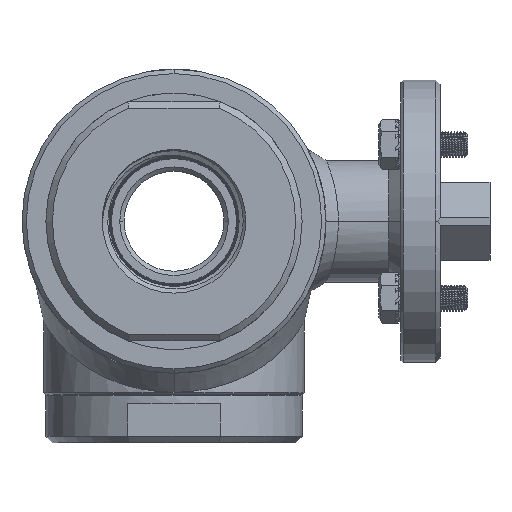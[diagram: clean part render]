
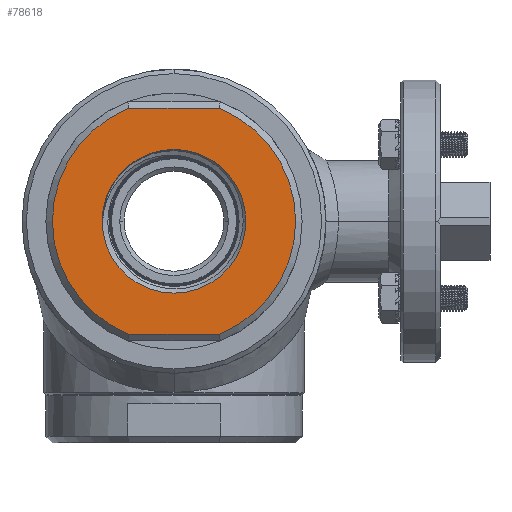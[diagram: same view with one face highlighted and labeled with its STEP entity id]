
A CAD part, front view. The second image highlights one B-rep face of the part: STEP entity #78618.
In plain terms, the highlighted planar face has unit normal (0, -1, 0).
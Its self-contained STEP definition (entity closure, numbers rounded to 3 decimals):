
#7713=DIRECTION('',(1.,0.,0.));
#7714=VECTOR('',#7713,20.785);
#7715=CARTESIAN_POINT('',(-10.392,-51.,-26.));
#7716=LINE('',#7715,#7714);
#7720=DIRECTION('',(-1.,0.,0.));
#7721=VECTOR('',#7720,20.785);
#7722=CARTESIAN_POINT('',(10.392,-51.,26.));
#7723=LINE('',#7722,#7721);
#7727=CARTESIAN_POINT('',(0.,-51.,0.));
#7728=DIRECTION('',(0.,1.,0.));
#7729=DIRECTION('',(1.,0.,0.));
#7730=AXIS2_PLACEMENT_3D('',#7727,#7728,#7729);
#7735=CARTESIAN_POINT('',(0.,-51.,0.));
#7736=DIRECTION('',(0.,1.,0.));
#7737=DIRECTION('',(-1.,0.,0.));
#7738=AXIS2_PLACEMENT_3D('',#7735,#7736,#7737);
#7743=CARTESIAN_POINT('',(0.,-51.,0.));
#7744=DIRECTION('',(0.,-1.,0.));
#7745=DIRECTION('',(0.371,0.,-0.929));
#7746=AXIS2_PLACEMENT_3D('',#7743,#7744,#7745);
#7771=CARTESIAN_POINT('',(0.,-51.,0.));
#7772=DIRECTION('',(0.,-1.,0.));
#7773=DIRECTION('',(-0.371,0.,0.929));
#7774=AXIS2_PLACEMENT_3D('',#7771,#7772,#7773);
#69603=CARTESIAN_POINT('',(-10.392,-51.,-26.));
#69604=CARTESIAN_POINT('',(10.392,-51.,-26.));
#69605=VERTEX_POINT('',#69603);
#69606=VERTEX_POINT('',#69604);
#69611=CARTESIAN_POINT('',(10.392,-51.,26.));
#69612=CARTESIAN_POINT('',(-10.392,-51.,26.));
#69613=VERTEX_POINT('',#69611);
#69614=VERTEX_POINT('',#69612);
#69615=CARTESIAN_POINT('',(16.55,-51.,0.));
#69616=CARTESIAN_POINT('',(-16.55,-51.,0.));
#69617=VERTEX_POINT('',#69615);
#69618=VERTEX_POINT('',#69616);
#78599=CARTESIAN_POINT('',(0.,-51.,0.));
#78600=DIRECTION('',(0.,-1.,0.));
#78601=DIRECTION('',(1.,0.,0.));
#78602=AXIS2_PLACEMENT_3D('',#78599,#78600,#78601);
#78603=PLANE('',#78602);
#78605=ORIENTED_EDGE('',*,*,#78604,.F.);
#78607=ORIENTED_EDGE('',*,*,#78606,.F.);
#78609=ORIENTED_EDGE('',*,*,#78608,.F.);
#78611=ORIENTED_EDGE('',*,*,#78610,.F.);
#78612=EDGE_LOOP('',(#78605,#78607,#78609,#78611));
#78613=FACE_OUTER_BOUND('',#78612,.F.);
#78614=ORIENTED_EDGE('',*,*,#78012,.F.);
#78615=ORIENTED_EDGE('',*,*,#78593,.F.);
#78616=EDGE_LOOP('',(#78614,#78615));
#78617=FACE_BOUND('',#78616,.F.);
#78618=ADVANCED_FACE('',(#78613,#78617),#78603,.T.);
#7731=CIRCLE('',#7730,16.55);
#7739=CIRCLE('',#7738,16.55);
#7747=CIRCLE('',#7746,28.);
#7775=CIRCLE('',#7774,28.);
#78012=EDGE_CURVE('',#69617,#69618,#7731,.T.);
#78593=EDGE_CURVE('',#69618,#69617,#7739,.T.);
#78604=EDGE_CURVE('',#69606,#69613,#7747,.T.);
#78606=EDGE_CURVE('',#69605,#69606,#7716,.T.);
#78608=EDGE_CURVE('',#69614,#69605,#7775,.T.);
#78610=EDGE_CURVE('',#69613,#69614,#7723,.T.);
